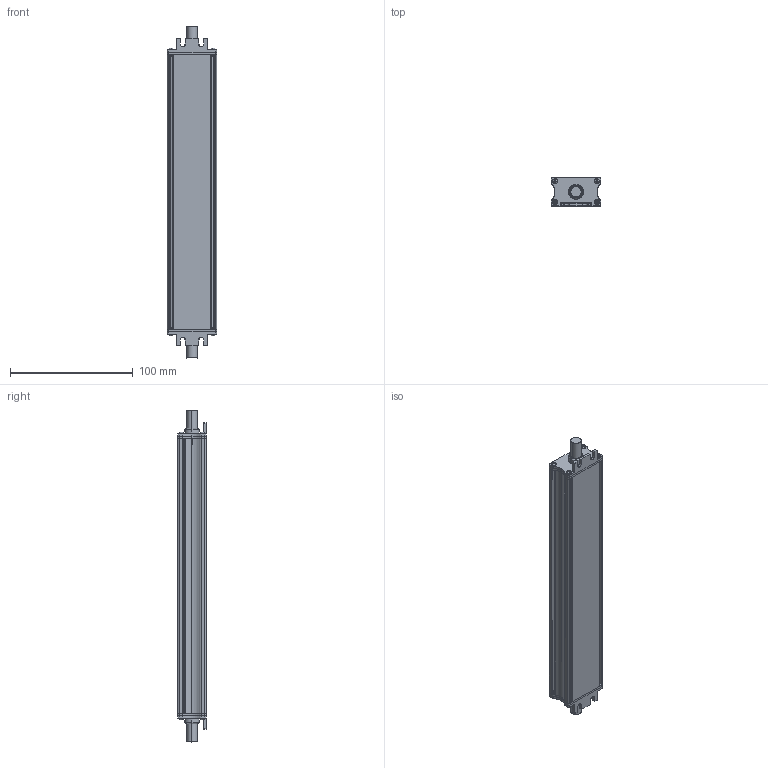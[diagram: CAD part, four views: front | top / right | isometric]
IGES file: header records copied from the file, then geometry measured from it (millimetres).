
Start section: SolidWorks IGES file using analytic representation for surfaces
Global section: file name: C:\Users\vuorinen_kari\Desktop\prj\OL1x110-E-CC-350\OL1x110-E-CC-350.IGS; native system: SolidWorks 2014; preprocessor: SolidWorks 2014; author: vuorinen_kari; date: 160512.094713; units: millimetre
Bounding box: 40 x 23 x 270.4 mm (x, y, z)
Surface area: 69764.8 mm2 (no closed solid volume)
Topology: 0 solids, 0 shells, 850 faces, 10800 edges, 10800 vertices
Faces by surface type: revolution 520, bspline 330
